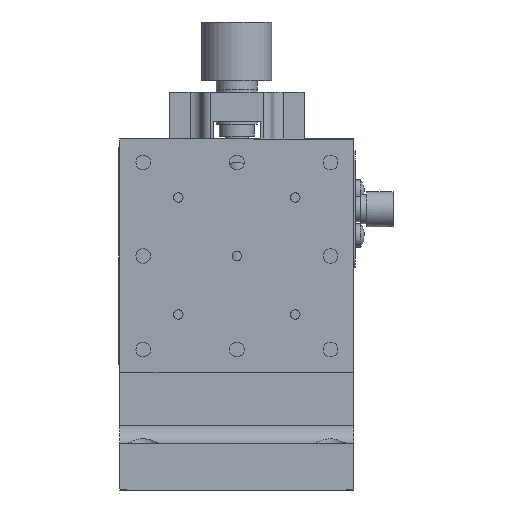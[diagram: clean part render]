
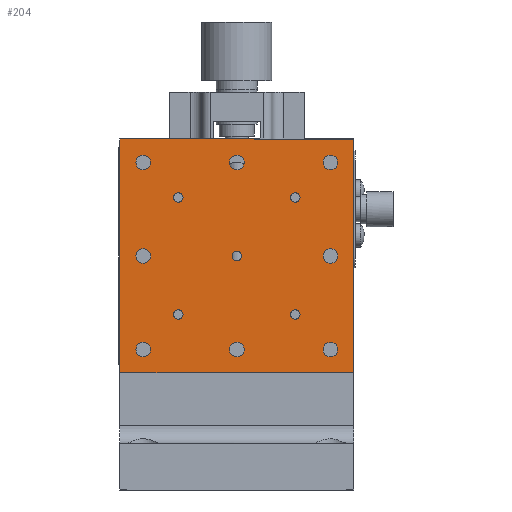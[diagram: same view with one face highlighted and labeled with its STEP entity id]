
A CAD part, front view. The second image highlights one B-rep face of the part: STEP entity #204.
In plain terms, the highlighted planar face has unit normal (0, -1, 0).
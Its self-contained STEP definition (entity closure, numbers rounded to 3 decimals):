
#204 = ADVANCED_FACE( '', ( #452, #453, #454, #455, #456, #457, #458, #459, #460, #461, #462, #463, #464, #465 ), #466, .T. );
#452 = FACE_BOUND( '', #979, .T. );
#453 = FACE_BOUND( '', #980, .T. );
#454 = FACE_BOUND( '', #981, .T. );
#455 = FACE_BOUND( '', #982, .T. );
#456 = FACE_BOUND( '', #983, .T. );
#457 = FACE_BOUND( '', #984, .T. );
#458 = FACE_BOUND( '', #985, .T. );
#459 = FACE_BOUND( '', #986, .T. );
#460 = FACE_BOUND( '', #987, .T. );
#461 = FACE_BOUND( '', #988, .T. );
#462 = FACE_BOUND( '', #989, .T. );
#463 = FACE_BOUND( '', #990, .T. );
#464 = FACE_BOUND( '', #991, .T. );
#465 = FACE_OUTER_BOUND( '', #992, .T. );
#466 = PLANE( '', #993 );
#979 = EDGE_LOOP( '', ( #1664 ) );
#980 = EDGE_LOOP( '', ( #1665 ) );
#981 = EDGE_LOOP( '', ( #1666 ) );
#982 = EDGE_LOOP( '', ( #1667 ) );
#983 = EDGE_LOOP( '', ( #1668 ) );
#984 = EDGE_LOOP( '', ( #1669 ) );
#985 = EDGE_LOOP( '', ( #1670 ) );
#986 = EDGE_LOOP( '', ( #1671 ) );
#987 = EDGE_LOOP( '', ( #1672 ) );
#988 = EDGE_LOOP( '', ( #1673 ) );
#989 = EDGE_LOOP( '', ( #1674 ) );
#990 = EDGE_LOOP( '', ( #1675 ) );
#991 = EDGE_LOOP( '', ( #1676 ) );
#992 = EDGE_LOOP( '', ( #1677, #1678, #1679, #1680 ) );
#993 = AXIS2_PLACEMENT_3D( '', #1681, #1682, #1683 );
#1664 = ORIENTED_EDGE( '', *, *, #2953, .T. );
#1665 = ORIENTED_EDGE( '', *, *, #2954, .T. );
#1666 = ORIENTED_EDGE( '', *, *, #2955, .T. );
#1667 = ORIENTED_EDGE( '', *, *, #2956, .T. );
#1668 = ORIENTED_EDGE( '', *, *, #2957, .T. );
#1669 = ORIENTED_EDGE( '', *, *, #2958, .T. );
#1670 = ORIENTED_EDGE( '', *, *, #2959, .T. );
#1671 = ORIENTED_EDGE( '', *, *, #2960, .T. );
#1672 = ORIENTED_EDGE( '', *, *, #2961, .T. );
#1673 = ORIENTED_EDGE( '', *, *, #2962, .T. );
#1674 = ORIENTED_EDGE( '', *, *, #2963, .T. );
#1675 = ORIENTED_EDGE( '', *, *, #2964, .T. );
#1676 = ORIENTED_EDGE( '', *, *, #2965, .T. );
#1677 = ORIENTED_EDGE( '', *, *, #2966, .F. );
#1678 = ORIENTED_EDGE( '', *, *, #2967, .F. );
#1679 = ORIENTED_EDGE( '', *, *, #2951, .F. );
#1680 = ORIENTED_EDGE( '', *, *, #2968, .F. );
#1681 = CARTESIAN_POINT( '', ( 0., -11., 40. ) );
#1682 = DIRECTION( '', ( 0., -1., 0. ) );
#1683 = DIRECTION( '', ( 0., 0., 1. ) );
#2951 = EDGE_CURVE( '', #3529, #3531, #3532, .T. );
#2953 = EDGE_CURVE( '', #3534, #3534, #3535, .T. );
#2954 = EDGE_CURVE( '', #3536, #3536, #3537, .T. );
#2955 = EDGE_CURVE( '', #3538, #3538, #3539, .T. );
#2956 = EDGE_CURVE( '', #3540, #3540, #3541, .T. );
#2957 = EDGE_CURVE( '', #3542, #3542, #3543, .T. );
#2958 = EDGE_CURVE( '', #3544, #3544, #3545, .T. );
#2959 = EDGE_CURVE( '', #3546, #3546, #3547, .T. );
#2960 = EDGE_CURVE( '', #3548, #3548, #3549, .T. );
#2961 = EDGE_CURVE( '', #3550, #3550, #3551, .T. );
#2962 = EDGE_CURVE( '', #3552, #3552, #3553, .T. );
#2963 = EDGE_CURVE( '', #3554, #3554, #3555, .T. );
#2964 = EDGE_CURVE( '', #3556, #3556, #3557, .T. );
#2965 = EDGE_CURVE( '', #3558, #3558, #3559, .T. );
#2966 = EDGE_CURVE( '', #3560, #3561, #3562, .T. );
#2967 = EDGE_CURVE( '', #3531, #3560, #3563, .T. );
#2968 = EDGE_CURVE( '', #3561, #3529, #3564, .T. );
#3529 = VERTEX_POINT( '', #4431 );
#3531 = VERTEX_POINT( '', #4434 );
#3532 = LINE( '', #4435, #4436 );
#3534 = VERTEX_POINT( '', #4439 );
#3535 = CIRCLE( '', #4440, 0.8 );
#3536 = VERTEX_POINT( '', #4441 );
#3537 = CIRCLE( '', #4442, 0.8 );
#3538 = VERTEX_POINT( '', #4443 );
#3539 = CIRCLE( '', #4444, 0.8 );
#3540 = VERTEX_POINT( '', #4445 );
#3541 = CIRCLE( '', #4446, 0.8 );
#3542 = VERTEX_POINT( '', #4447 );
#3543 = CIRCLE( '', #4448, 0.8 );
#3544 = VERTEX_POINT( '', #4449 );
#3545 = CIRCLE( '', #4450, 1.25 );
#3546 = VERTEX_POINT( '', #4451 );
#3547 = CIRCLE( '', #4452, 1.25 );
#3548 = VERTEX_POINT( '', #4453 );
#3549 = CIRCLE( '', #4454, 1.25 );
#3550 = VERTEX_POINT( '', #4455 );
#3551 = CIRCLE( '', #4456, 1.25 );
#3552 = VERTEX_POINT( '', #4457 );
#3553 = CIRCLE( '', #4458, 1.25 );
#3554 = VERTEX_POINT( '', #4459 );
#3555 = CIRCLE( '', #4460, 1.25 );
#3556 = VERTEX_POINT( '', #4461 );
#3557 = CIRCLE( '', #4462, 1.25 );
#3558 = VERTEX_POINT( '', #4463 );
#3559 = CIRCLE( '', #4464, 1.25 );
#3560 = VERTEX_POINT( '', #4465 );
#3561 = VERTEX_POINT( '', #4466 );
#3562 = LINE( '', #4467, #4468 );
#3563 = LINE( '', #4469, #4470 );
#3564 = LINE( '', #4471, #4472 );
#4431 = CARTESIAN_POINT( '', ( -20., -11., 20. ) );
#4434 = CARTESIAN_POINT( '', ( -20., -11., 60. ) );
#4435 = CARTESIAN_POINT( '', ( -20., -11., 40. ) );
#4436 = VECTOR( '', #5676, 1000. );
#4439 = CARTESIAN_POINT( '', ( 0.8, -11., 40. ) );
#4440 = AXIS2_PLACEMENT_3D( '', #5678, #5679, #5680 );
#4441 = CARTESIAN_POINT( '', ( -9.2, -11., 30. ) );
#4442 = AXIS2_PLACEMENT_3D( '', #5681, #5682, #5683 );
#4443 = CARTESIAN_POINT( '', ( -9.2, -11., 50. ) );
#4444 = AXIS2_PLACEMENT_3D( '', #5684, #5685, #5686 );
#4445 = CARTESIAN_POINT( '', ( 10.8, -11., 50. ) );
#4446 = AXIS2_PLACEMENT_3D( '', #5687, #5688, #5689 );
#4447 = CARTESIAN_POINT( '', ( 10.8, -11., 30. ) );
#4448 = AXIS2_PLACEMENT_3D( '', #5690, #5691, #5692 );
#4449 = CARTESIAN_POINT( '', ( 1.25, -11., 24. ) );
#4450 = AXIS2_PLACEMENT_3D( '', #5693, #5694, #5695 );
#4451 = CARTESIAN_POINT( '', ( -14.75, -11., 24. ) );
#4452 = AXIS2_PLACEMENT_3D( '', #5696, #5697, #5698 );
#4453 = CARTESIAN_POINT( '', ( -14.75, -11., 40. ) );
#4454 = AXIS2_PLACEMENT_3D( '', #5699, #5700, #5701 );
#4455 = CARTESIAN_POINT( '', ( -14.75, -11., 56. ) );
#4456 = AXIS2_PLACEMENT_3D( '', #5702, #5703, #5704 );
#4457 = CARTESIAN_POINT( '', ( 1.25, -11., 56. ) );
#4458 = AXIS2_PLACEMENT_3D( '', #5705, #5706, #5707 );
#4459 = CARTESIAN_POINT( '', ( 17.25, -11., 56. ) );
#4460 = AXIS2_PLACEMENT_3D( '', #5708, #5709, #5710 );
#4461 = CARTESIAN_POINT( '', ( 17.25, -11., 40. ) );
#4462 = AXIS2_PLACEMENT_3D( '', #5711, #5712, #5713 );
#4463 = CARTESIAN_POINT( '', ( 17.25, -11., 24. ) );
#4464 = AXIS2_PLACEMENT_3D( '', #5714, #5715, #5716 );
#4465 = CARTESIAN_POINT( '', ( 20., -11., 60. ) );
#4466 = CARTESIAN_POINT( '', ( 20., -11., 20. ) );
#4467 = CARTESIAN_POINT( '', ( 20., -11., 40. ) );
#4468 = VECTOR( '', #5717, 1000. );
#4469 = CARTESIAN_POINT( '', ( 0., -11., 60. ) );
#4470 = VECTOR( '', #5718, 1000. );
#4471 = CARTESIAN_POINT( '', ( 0., -11., 20. ) );
#4472 = VECTOR( '', #5719, 1000. );
#5676 = DIRECTION( '', ( 0., 0., 1. ) );
#5678 = CARTESIAN_POINT( '', ( 0., -11., 40. ) );
#5679 = DIRECTION( '', ( 0., 1., 0. ) );
#5680 = DIRECTION( '', ( 1., 0., 0. ) );
#5681 = CARTESIAN_POINT( '', ( -10., -11., 30. ) );
#5682 = DIRECTION( '', ( 0., 1., 0. ) );
#5683 = DIRECTION( '', ( 1., 0., 0. ) );
#5684 = CARTESIAN_POINT( '', ( -10., -11., 50. ) );
#5685 = DIRECTION( '', ( 0., 1., 0. ) );
#5686 = DIRECTION( '', ( 1., 0., 0. ) );
#5687 = CARTESIAN_POINT( '', ( 10., -11., 50. ) );
#5688 = DIRECTION( '', ( 0., 1., 0. ) );
#5689 = DIRECTION( '', ( 1., 0., 0. ) );
#5690 = CARTESIAN_POINT( '', ( 10., -11., 30. ) );
#5691 = DIRECTION( '', ( 0., 1., 0. ) );
#5692 = DIRECTION( '', ( 1., 0., 0. ) );
#5693 = CARTESIAN_POINT( '', ( 0., -11., 24. ) );
#5694 = DIRECTION( '', ( 0., 1., 0. ) );
#5695 = DIRECTION( '', ( 1., 0., 0. ) );
#5696 = CARTESIAN_POINT( '', ( -16., -11., 24. ) );
#5697 = DIRECTION( '', ( 0., 1., 0. ) );
#5698 = DIRECTION( '', ( 1., 0., 0. ) );
#5699 = CARTESIAN_POINT( '', ( -16., -11., 40. ) );
#5700 = DIRECTION( '', ( 0., 1., 0. ) );
#5701 = DIRECTION( '', ( 1., 0., 0. ) );
#5702 = CARTESIAN_POINT( '', ( -16., -11., 56. ) );
#5703 = DIRECTION( '', ( 0., 1., 0. ) );
#5704 = DIRECTION( '', ( 1., 0., 0. ) );
#5705 = CARTESIAN_POINT( '', ( 0., -11., 56. ) );
#5706 = DIRECTION( '', ( 0., 1., 0. ) );
#5707 = DIRECTION( '', ( 1., 0., 0. ) );
#5708 = CARTESIAN_POINT( '', ( 16., -11., 56. ) );
#5709 = DIRECTION( '', ( 0., 1., 0. ) );
#5710 = DIRECTION( '', ( 1., 0., 0. ) );
#5711 = CARTESIAN_POINT( '', ( 16., -11., 40. ) );
#5712 = DIRECTION( '', ( 0., 1., 0. ) );
#5713 = DIRECTION( '', ( 1., 0., 0. ) );
#5714 = CARTESIAN_POINT( '', ( 16., -11., 24. ) );
#5715 = DIRECTION( '', ( 0., 1., 0. ) );
#5716 = DIRECTION( '', ( 1., 0., 0. ) );
#5717 = DIRECTION( '', ( 0., 0., -1. ) );
#5718 = DIRECTION( '', ( 1., 0., 0. ) );
#5719 = DIRECTION( '', ( -1., 0., 0. ) );
